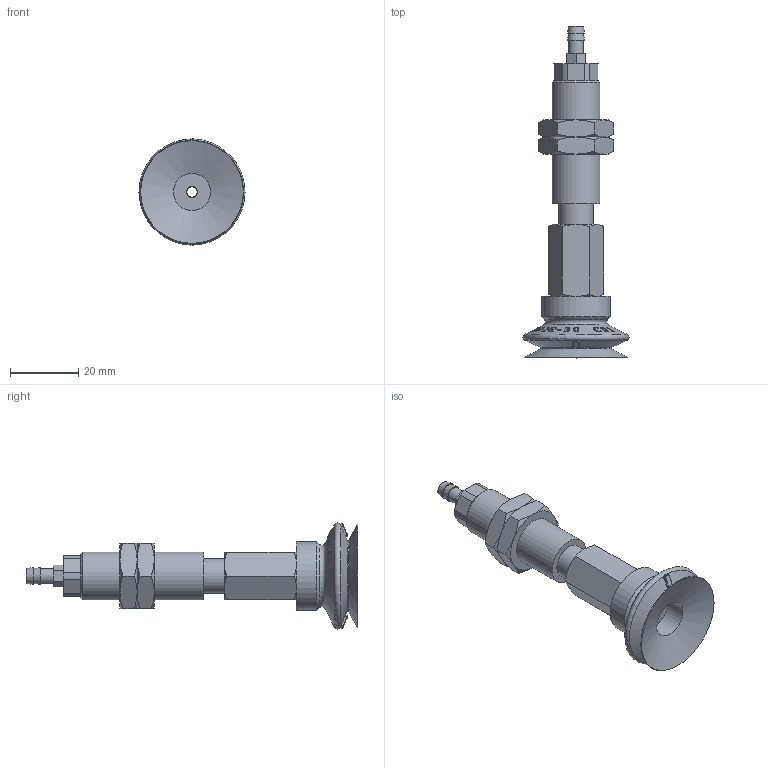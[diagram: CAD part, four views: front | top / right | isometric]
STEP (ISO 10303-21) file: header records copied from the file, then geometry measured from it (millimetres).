
FILE_DESCRIPTION(('STEP AP214'),'1');
FILE_NAME('-T.stp','2026-01-21T05:04:26',(' '),(' '),'Spatial InterOp 3D',' ',' ');
FILE_SCHEMA(('AUTOMOTIVE_DESIGN { 1 0 10303 214 1 1 1 1 }'));
Length unit declared in the file: millimetre
Products named in the file (8): BNABPJTS-30-6-※-T; Adapter-30-NAPJ; NUT-NAPJ-30-6-s; NAPJTS-30-6-FBODY; BPJG-30-※; NAPJTS-30-6-MBODY; ADAPTER; T
Assembly tree (8 placements, depth 2):
  BNABPJTS-30-6-※-T
    Adapter-30-NAPJ
    NUT-NAPJ-30-6-s  x2
    NAPJTS-30-6-FBODY
    BPJG-30-※
    NAPJTS-30-6-MBODY
    ADAPTER
    T
Bounding box: 30.99 x 97 x 30.99 mm (x, y, z)
Volume: 17526.3 mm3; surface area: 12951.5 mm2
Topology: 8 solids, 8 shells, 788 faces, 2177 edges, 1430 vertices
Faces by surface type: plane 679, cone 70, cylinder 32, torus 7
Full cylindrical faces by diameter (mm): 3 x4, 4.134 x1, 4.3 x1, 4.917 x1, 5 x1, 5.8 x1, 6 x1, 10 x2, 10.8 x1, 11 x1, 13.188 x2, 14 x1, 20 x1
Entity records: 31446 total; most frequent: CARTESIAN_POINT 7753, ORIENTED_EDGE 4176, DIRECTION 2665, EDGE_CURVE 2088, VERTEX_POINT 1397, B_SPLINE_CURVE_WITH_KNOTS 1084, LINE 891, VECTOR 891
